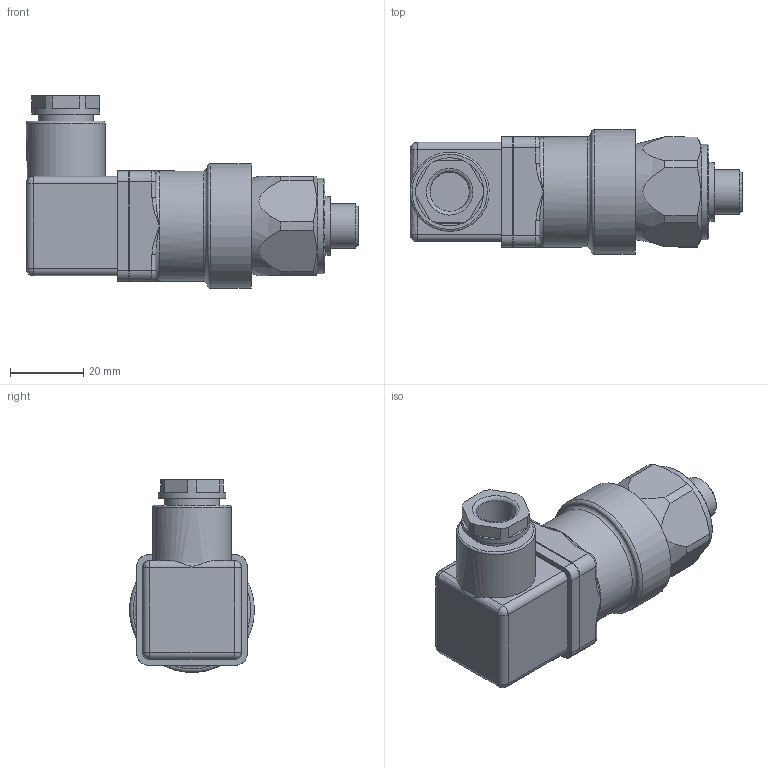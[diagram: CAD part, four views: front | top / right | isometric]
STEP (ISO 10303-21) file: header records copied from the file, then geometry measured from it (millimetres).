
FILE_DESCRIPTION((''),'2;1');
FILE_NAME('U:\Users\a.heinl\11765100.stp','2013-05-13T13:47:53',( 'User'),('SDRC'),'I-DEAS Master Series 9','UNIX','Yes');
FILE_SCHEMA(('AUTOMOTIVE_DESIGN { 1 0 10303 214 1 1 1 1 }'));
Length unit declared in the file: millimetre
Products named in the file (1): 11765100(235473)
Bounding box: 90.4 x 34 x 52.47 mm (x, y, z)
Volume: 67156.7 mm3; surface area: 13160.3 mm2
Topology: 1 solids, 2 shells, 142 faces, 332 edges, 194 vertices
Faces by surface type: bspline 142
Entity records: 4774 total; most frequent: CARTESIAN_POINT 2901, ORIENTED_EDGE 640, EDGE_CURVE 320, VERTEX_POINT 193, EDGE_LOOP 155, FACE_OUTER_BOUND 142, ADVANCED_FACE 142, B_SPLINE_CURVE_WITH_KNOTS 133
